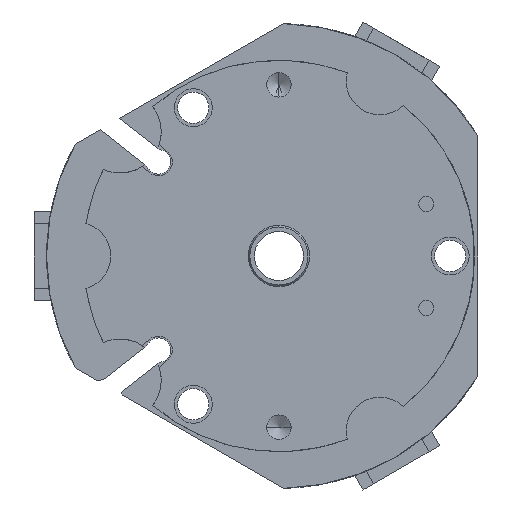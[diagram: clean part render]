
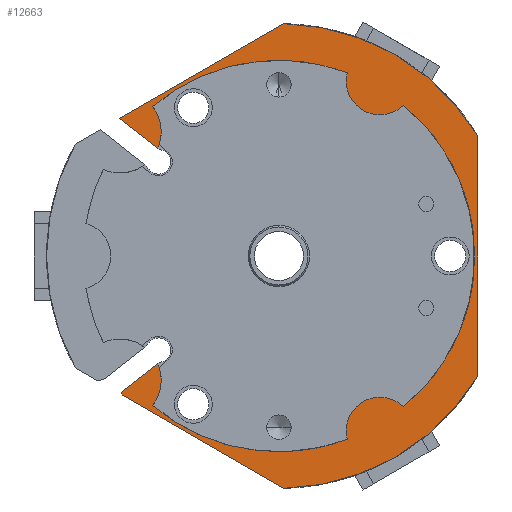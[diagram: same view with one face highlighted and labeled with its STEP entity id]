
A CAD part, front view. The second image highlights one B-rep face of the part: STEP entity #12663.
In plain terms, the highlighted planar face has unit normal (0, -1, 0).
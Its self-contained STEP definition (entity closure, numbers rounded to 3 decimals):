
#4 = EDGE_CURVE ( 'NONE', #4582, #12036, #1271, .T. ) ;
#60 = AXIS2_PLACEMENT_3D ( 'NONE', #5681, #11333, #9196 ) ;
#185 = EDGE_CURVE ( 'NONE', #12036, #4857, #14195, .T. ) ;
#398 = CARTESIAN_POINT ( 'NONE',  ( -26.034, -21., 22.497 ) ) ;
#561 = EDGE_CURVE ( 'NONE', #2936, #2137, #669, .T. ) ;
#669 = CIRCLE ( 'NONE', #12820, 7.5 ) ;
#722 = VERTEX_POINT ( 'NONE', #6064 ) ;
#728 = CARTESIAN_POINT ( 'NONE',  ( 0.803, -21., -37.992 ) ) ;
#763 = EDGE_CURVE ( 'NONE', #2936, #1553, #1607, .T. ) ;
#775 = VERTEX_POINT ( 'NONE', #2895 ) ;
#840 = CARTESIAN_POINT ( 'NONE',  ( 0., -21., 0. ) ) ;
#919 = CARTESIAN_POINT ( 'NONE',  ( 16.5, -21., 28.579 ) ) ;
#938 = CARTESIAN_POINT ( 'NONE',  ( 9.284, -21., 30.624 ) ) ;
#1271 = LINE ( 'NONE', #2114, #7477 ) ;
#1408 = AXIS2_PLACEMENT_3D ( 'NONE', #10856, #3900, #12026 ) ;
#1428 = DIRECTION ( 'NONE',  ( 0., -1., 0. ) ) ;
#1490 = ORIENTED_EDGE ( 'NONE', *, *, #6745, .T. ) ;
#1553 = VERTEX_POINT ( 'NONE', #4073 ) ;
#1607 = CIRCLE ( 'NONE', #1408, 32. ) ;
#1680 = ORIENTED_EDGE ( 'NONE', *, *, #11944, .T. ) ;
#2114 = CARTESIAN_POINT ( 'NONE',  ( 32.5, -21., 0. ) ) ;
#2137 = VERTEX_POINT ( 'NONE', #13660 ) ;
#2148 = EDGE_CURVE ( 'NONE', #4857, #2890, #2387, .T. ) ;
#2188 = CARTESIAN_POINT ( 'NONE',  ( -25.731, -21., -22.261 ) ) ;
#2264 = VECTOR ( 'NONE', #3172, 1000. ) ;
#2289 = EDGE_CURVE ( 'NONE', #14597, #5310, #14949, .T. ) ;
#2387 = LINE ( 'NONE', #9221, #13512 ) ;
#2474 = DIRECTION ( 'NONE',  ( 0., 0., 1. ) ) ;
#2622 = ORIENTED_EDGE ( 'NONE', *, *, #4, .T. ) ;
#2742 = AXIS2_PLACEMENT_3D ( 'NONE', #9506, #8337, #11839 ) ;
#2890 = VERTEX_POINT ( 'NONE', #398 ) ;
#2895 = CARTESIAN_POINT ( 'NONE',  ( -19.81, -21., -17.635 ) ) ;
#2936 = VERTEX_POINT ( 'NONE', #13253 ) ;
#3097 = ORIENTED_EDGE ( 'NONE', *, *, #185, .T. ) ;
#3172 = DIRECTION ( 'NONE',  ( 0.788, 0., -0.616 ) ) ;
#3274 = AXIS2_PLACEMENT_3D ( 'NONE', #919, #13733, #6939 ) ;
#3351 = EDGE_CURVE ( 'NONE', #722, #1553, #14358, .T. ) ;
#3376 = CARTESIAN_POINT ( 'NONE',  ( 32.5, -21., 19.691 ) ) ;
#3405 = DIRECTION ( 'NONE',  ( 0., -1., 0. ) ) ;
#3407 = AXIS2_PLACEMENT_3D ( 'NONE', #9701, #3865, #5039 ) ;
#3467 = ORIENTED_EDGE ( 'NONE', *, *, #561, .T. ) ;
#3554 = EDGE_CURVE ( 'NONE', #3635, #5212, #10169, .T. ) ;
#3635 = VERTEX_POINT ( 'NONE', #938 ) ;
#3698 = VECTOR ( 'NONE', #5269, 1000. ) ;
#3837 = VERTEX_POINT ( 'NONE', #13023 ) ;
#3865 = DIRECTION ( 'NONE',  ( 0., -1., 0. ) ) ;
#3900 = DIRECTION ( 'NONE',  ( 0., -1., 0. ) ) ;
#4073 = CARTESIAN_POINT ( 'NONE',  ( 21.879, -21., 23.352 ) ) ;
#4079 = DIRECTION ( 'NONE',  ( -0.788, 0., -0.616 ) ) ;
#4132 = CARTESIAN_POINT ( 'NONE',  ( -20.659, -21., 24.438 ) ) ;
#4142 = DIRECTION ( 'NONE',  ( 0., -1., 0. ) ) ;
#4284 = EDGE_CURVE ( 'NONE', #3635, #722, #4285, .T. ) ;
#4285 = CIRCLE ( 'NONE', #3274, 7.5 ) ;
#4582 = VERTEX_POINT ( 'NONE', #5342 ) ;
#4857 = VERTEX_POINT ( 'NONE', #9318 ) ;
#4928 = CARTESIAN_POINT ( 'NONE',  ( 0., -21., 0. ) ) ;
#5015 = CARTESIAN_POINT ( 'NONE',  ( 16.5, -21., 28.579 ) ) ;
#5039 = DIRECTION ( 'NONE',  ( 0., 0., -1. ) ) ;
#5194 = EDGE_CURVE ( 'NONE', #14597, #14666, #11382, .T. ) ;
#5212 = VERTEX_POINT ( 'NONE', #4132 ) ;
#5269 = DIRECTION ( 'NONE',  ( -0.259, 0., 0.966 ) ) ;
#5310 = VERTEX_POINT ( 'NONE', #728 ) ;
#5342 = CARTESIAN_POINT ( 'NONE',  ( 32.5, -21., -19.691 ) ) ;
#5681 = CARTESIAN_POINT ( 'NONE',  ( -26.004, -21., -20.317 ) ) ;
#5846 = DIRECTION ( 'NONE',  ( -0.866, 0., -0.5 ) ) ;
#5893 = CARTESIAN_POINT ( 'NONE',  ( -25.601, -21., -22.747 ) ) ;
#6064 = CARTESIAN_POINT ( 'NONE',  ( 16.5, -21., 21.079 ) ) ;
#6164 = ORIENTED_EDGE ( 'NONE', *, *, #763, .F. ) ;
#6262 = ORIENTED_EDGE ( 'NONE', *, *, #10261, .T. ) ;
#6338 = EDGE_CURVE ( 'NONE', #2890, #9596, #14644, .T. ) ;
#6393 = CARTESIAN_POINT ( 'NONE',  ( -19.81, -21., -17.635 ) ) ;
#6407 = CIRCLE ( 'NONE', #3407, 32. ) ;
#6455 = CARTESIAN_POINT ( 'NONE',  ( -26.004, -21., 20.317 ) ) ;
#6460 = AXIS2_PLACEMENT_3D ( 'NONE', #7173, #9450, #2474 ) ;
#6745 = EDGE_CURVE ( 'NONE', #775, #14666, #10817, .T. ) ;
#6798 = DIRECTION ( 'NONE',  ( 0., 0., -1. ) ) ;
#6812 = CIRCLE ( 'NONE', #9851, 32. ) ;
#6927 = ORIENTED_EDGE ( 'NONE', *, *, #3554, .F. ) ;
#6932 = CARTESIAN_POINT ( 'NONE',  ( 16.5, -21., -28.579 ) ) ;
#6939 = DIRECTION ( 'NONE',  ( 0., 0., -1. ) ) ;
#7173 = CARTESIAN_POINT ( 'NONE',  ( 0., -21., 0. ) ) ;
#7200 = EDGE_CURVE ( 'NONE', #10955, #3837, #6407, .T. ) ;
#7237 = DIRECTION ( 'NONE',  ( 0., -1., 0. ) ) ;
#7477 = VECTOR ( 'NONE', #10272, 1000. ) ;
#7541 = ORIENTED_EDGE ( 'NONE', *, *, #3351, .T. ) ;
#7791 = CIRCLE ( 'NONE', #60, 6.75 ) ;
#8040 = DIRECTION ( 'NONE',  ( 0., -1., 0. ) ) ;
#8052 = ORIENTED_EDGE ( 'NONE', *, *, #13736, .T. ) ;
#8130 = CARTESIAN_POINT ( 'NONE',  ( 0., -21., 0. ) ) ;
#8337 = DIRECTION ( 'NONE',  ( 0., -1., 0. ) ) ;
#8514 = CARTESIAN_POINT ( 'NONE',  ( -25.731, -21., -22.261 ) ) ;
#9196 = DIRECTION ( 'NONE',  ( 0., 0., -1. ) ) ;
#9221 = CARTESIAN_POINT ( 'NONE',  ( 0.803, -21., 37.992 ) ) ;
#9318 = CARTESIAN_POINT ( 'NONE',  ( 0.803, -21., 37.992 ) ) ;
#9450 = DIRECTION ( 'NONE',  ( 0., -1., 0. ) ) ;
#9506 = CARTESIAN_POINT ( 'NONE',  ( 0., -21., 0. ) ) ;
#9596 = VERTEX_POINT ( 'NONE', #12524 ) ;
#9701 = CARTESIAN_POINT ( 'NONE',  ( 0., -21., 0. ) ) ;
#9716 = EDGE_LOOP ( 'NONE', ( #14618, #1680, #6927, #13861, #7541, #6164, #3467, #10128, #14955, #6262, #1490, #14861, #11807, #8052, #2622, #3097, #11474 ) ) ;
#9851 = AXIS2_PLACEMENT_3D ( 'NONE', #4928, #1428, #14308 ) ;
#10128 = ORIENTED_EDGE ( 'NONE', *, *, #11647, .F. ) ;
#10169 = CIRCLE ( 'NONE', #12962, 32. ) ;
#10261 = EDGE_CURVE ( 'NONE', #10955, #775, #7791, .T. ) ;
#10272 = DIRECTION ( 'NONE',  ( 0., 0., 1. ) ) ;
#10355 = AXIS2_PLACEMENT_3D ( 'NONE', #8130, #3405, #6798 ) ;
#10449 = VECTOR ( 'NONE', #4079, 1000. ) ;
#10452 = DIRECTION ( 'NONE',  ( 0., -1., 0. ) ) ;
#10817 = LINE ( 'NONE', #6393, #10449 ) ;
#10856 = CARTESIAN_POINT ( 'NONE',  ( 0., -21., 0. ) ) ;
#10955 = VERTEX_POINT ( 'NONE', #12852 ) ;
#11103 = CARTESIAN_POINT ( 'NONE',  ( -25.601, -21., -22.747 ) ) ;
#11123 = VECTOR ( 'NONE', #14049, 1000. ) ;
#11309 = AXIS2_PLACEMENT_3D ( 'NONE', #6455, #4142, #14700 ) ;
#11333 = DIRECTION ( 'NONE',  ( 0., -1., 0. ) ) ;
#11346 = CARTESIAN_POINT ( 'NONE',  ( -26.034, -21., 22.497 ) ) ;
#11382 = LINE ( 'NONE', #8514, #3698 ) ;
#11474 = ORIENTED_EDGE ( 'NONE', *, *, #2148, .T. ) ;
#11647 = EDGE_CURVE ( 'NONE', #3837, #2137, #6812, .T. ) ;
#11807 = ORIENTED_EDGE ( 'NONE', *, *, #2289, .T. ) ;
#11839 = DIRECTION ( 'NONE',  ( 0., 0., 1. ) ) ;
#11944 = EDGE_CURVE ( 'NONE', #9596, #5212, #14818, .T. ) ;
#12026 = DIRECTION ( 'NONE',  ( 0., 0., -1. ) ) ;
#12036 = VERTEX_POINT ( 'NONE', #3376 ) ;
#12358 = AXIS2_PLACEMENT_3D ( 'NONE', #5015, #7237, #13034 ) ;
#12524 = CARTESIAN_POINT ( 'NONE',  ( -19.81, -21., 17.635 ) ) ;
#12602 = PLANE ( 'NONE',  #10355 ) ;
#12615 = FACE_OUTER_BOUND ( 'NONE', #9716, .T. ) ;
#12663 = ADVANCED_FACE ( 'NONE', ( #12615 ), #12602, .T. ) ;
#12791 = DIRECTION ( 'NONE',  ( 0., 0., -1. ) ) ;
#12820 = AXIS2_PLACEMENT_3D ( 'NONE', #6932, #10452, #12791 ) ;
#12852 = CARTESIAN_POINT ( 'NONE',  ( -20.659, -21., -24.438 ) ) ;
#12962 = AXIS2_PLACEMENT_3D ( 'NONE', #840, #8040, #14850 ) ;
#13023 = CARTESIAN_POINT ( 'NONE',  ( 0., -21., -32. ) ) ;
#13034 = DIRECTION ( 'NONE',  ( 0., 0., -1. ) ) ;
#13253 = CARTESIAN_POINT ( 'NONE',  ( 21.879, -21., -23.352 ) ) ;
#13497 = CIRCLE ( 'NONE', #2742, 38. ) ;
#13512 = VECTOR ( 'NONE', #5846, 1000. ) ;
#13660 = CARTESIAN_POINT ( 'NONE',  ( 9.284, -21., -30.624 ) ) ;
#13733 = DIRECTION ( 'NONE',  ( 0., -1., 0. ) ) ;
#13736 = EDGE_CURVE ( 'NONE', #5310, #4582, #13497, .T. ) ;
#13861 = ORIENTED_EDGE ( 'NONE', *, *, #4284, .T. ) ;
#14049 = DIRECTION ( 'NONE',  ( 0.866, 0., -0.5 ) ) ;
#14195 = CIRCLE ( 'NONE', #6460, 38. ) ;
#14308 = DIRECTION ( 'NONE',  ( 0., 0., -1. ) ) ;
#14358 = CIRCLE ( 'NONE', #12358, 7.5 ) ;
#14597 = VERTEX_POINT ( 'NONE', #11103 ) ;
#14618 = ORIENTED_EDGE ( 'NONE', *, *, #6338, .T. ) ;
#14644 = LINE ( 'NONE', #11346, #2264 ) ;
#14666 = VERTEX_POINT ( 'NONE', #2188 ) ;
#14700 = DIRECTION ( 'NONE',  ( 0., 0., -1. ) ) ;
#14818 = CIRCLE ( 'NONE', #11309, 6.75 ) ;
#14850 = DIRECTION ( 'NONE',  ( 0., 0., -1. ) ) ;
#14861 = ORIENTED_EDGE ( 'NONE', *, *, #5194, .F. ) ;
#14949 = LINE ( 'NONE', #5893, #11123 ) ;
#14955 = ORIENTED_EDGE ( 'NONE', *, *, #7200, .F. ) ;
